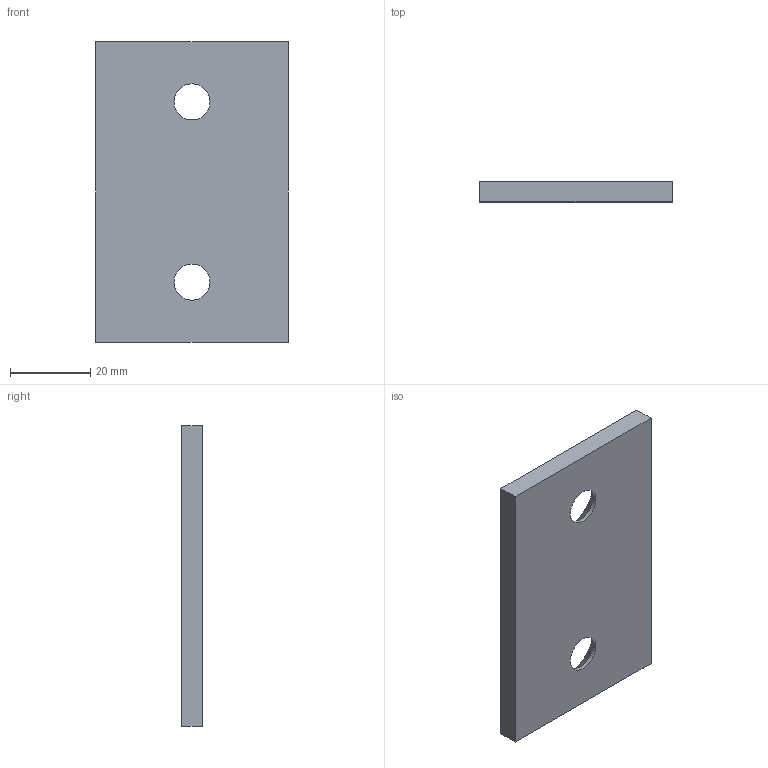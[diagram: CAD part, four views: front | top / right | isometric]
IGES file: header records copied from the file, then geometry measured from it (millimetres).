
Start section: Data from Parasolid IGES Translator 20.0.26, Copyright(c) 2006 Siemens P LM Software. All Rights Reserved.
Global section: file name: P605-01-048-075.igs; native system: By Siemens PLM Incorporated; preprocessor: XPlus GENERIC/IGES 20.0.26; author: Noname; organization: Noname; date: 20190705.145910; units: millimetre
Bounding box: 48 x 5 x 75 mm (x, y, z)
Surface area: 8367.4 mm2 (no closed solid volume)
Topology: 0 solids, 0 shells, 10 faces, 44 edges, 41 vertices
Faces by surface type: extrusion 6, revolution 4
